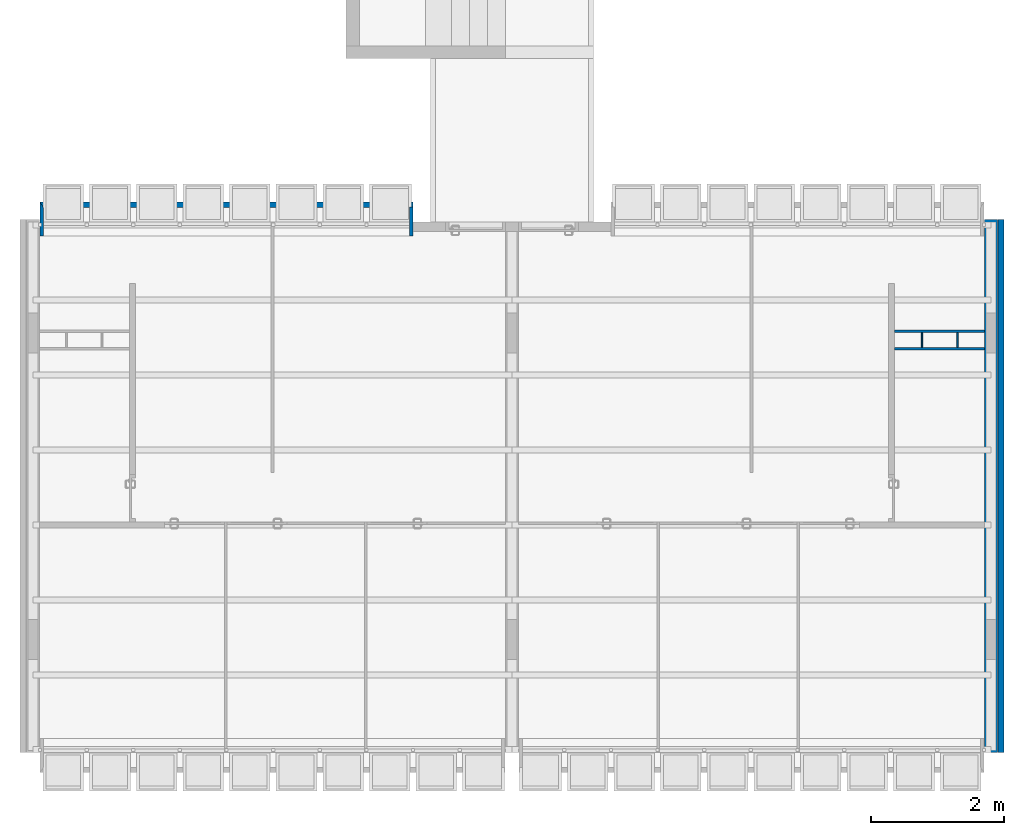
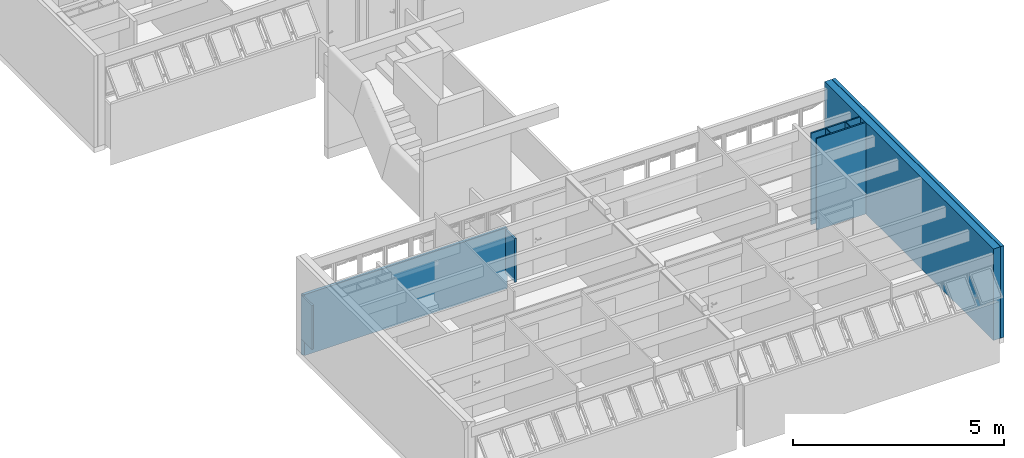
# One storey, part 12 of 37: 9 walls.
"""IFC2X3 building model written with IfcOpenShell, lengths in millimetres."""

from ifc_helpers import new_model, entity, si_unit, converted_unit, derived_unit, money_unit, direction, frame, origin_with_axes, place, context, subcontext, project, spatial, polyline, outline, extrude, material, layer, layer_set, layer_usage, type_object, element, save


model = new_model("IFC2X3")

# Units and contexts
model_context = context("Model", 3, precision=0.01, world=origin_with_axes(), true_north=direction((0.0, 1.0)))
body_context = subcontext(model_context, "Body", "Model", "MODEL_VIEW")
ifc_project = project(units=[si_unit("LENGTHUNIT", "METRE", prefix="MILLI"), si_unit("AREAUNIT", "SQUARE_METRE"), si_unit("VOLUMEUNIT", "CUBIC_METRE"), converted_unit("PLANEANGLEUNIT", "DEGREE", entity("IfcPlaneAngleMeasure", 0.0174532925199), si_unit("PLANEANGLEUNIT", "RADIAN"), dimensions=[0, 0, 0, 0, 0, 0, 0]), money_unit("USD"), converted_unit("TIMEUNIT", "Year", entity("IfcTimeMeasure", 31556926.0), si_unit("TIMEUNIT", "SECOND"), dimensions=[0, 0, 1, 0, 0, 0, 0]), si_unit("MASSUNIT", "GRAM", prefix="KILO"), si_unit("THERMODYNAMICTEMPERATUREUNIT", "DEGREE_CELSIUS"), si_unit("LUMINOUSINTENSITYUNIT", "LUMEN"), si_unit("ENERGYUNIT", "JOULE", prefix="MEGA"), derived_unit("THERMALCONDUCTANCEUNIT", [(si_unit("POWERUNIT", "WATT"), 1), (si_unit("LENGTHUNIT", "METRE"), -1), (si_unit("THERMODYNAMICTEMPERATUREUNIT", "KELVIN"), -1)]), derived_unit("SPECIFICHEATCAPACITYUNIT", [(si_unit("ENERGYUNIT", "JOULE"), 1), (si_unit("MASSUNIT", "GRAM", prefix="KILO"), -1), (si_unit("THERMODYNAMICTEMPERATUREUNIT", "KELVIN"), -1)]), derived_unit("MASSDENSITYUNIT", [(si_unit("MASSUNIT", "GRAM", prefix="KILO"), 1), (si_unit("VOLUMEUNIT", "CUBIC_METRE"), -1)])], contexts=[model_context])

# Site, building, storey
site_placement = place(None, origin_with_axes())
site = spatial("IfcSite", under=ifc_project, at=site_placement, Name="Local", CompositionType="ELEMENT")
building_placement = place(site_placement, origin_with_axes())
building = spatial("IfcBuilding", under=site, at=building_placement, Name="Construção", CompositionType="ELEMENT")
storey_placement = place(building_placement, origin_with_axes())
storey = spatial("IfcBuildingStorey", under=building, at=storey_placement, Name="Primeiro Pavimento", CompositionType="ELEMENT", Elevation=0.0)

# Walls
ifc_material_1 = material(Name="GENÉRICO - VEDAÇÃO EXTERNA")
ifc_layer_1 = layer(ifc_material_1, 190.0, ventilated="UNKNOWN")
ifc_layer_set_1 = layer_set([ifc_layer_1], Name="GENÉRICO - VEDAÇÃO EXTERNA 190")
ifc_layer_usage_1 = layer_usage(ifc_layer_set_1, "AXIS2", "POSITIVE", 0.0)
wall_type_1 = type_object("IfcWallType", Name="GENÉRICO - VEDAÇÃO EXTERNA 190", PredefinedType="NOTDEFINED")
wall_1_placement = place(storey_placement, frame((14480.0, 8300.0, 0.0), z_axis=(0.0, 0.0, 1.0), x_axis=(0.0, -1.0, 0.0)))
element("IfcWallStandardCase", 1, at=wall_1_placement, inside=storey, type_object=wall_type_1, material=ifc_layer_usage_1, Name="APTO2-PAREDE-013", context=body_context, shape_type="SweptSolid", body=[
    extrude(outline(polyline([(0.0, 0.0), (8000.0, 0.0), (8000.0, 190.0), (0.0, 190.0), (0.0, 0.0)])), origin_with_axes(), (0.0, 0.0, 1.0), 2650.0),
])
ifc_layer_2 = layer(ifc_material_1, 40.0, ventilated="UNKNOWN")
ifc_layer_set_2 = layer_set([ifc_layer_2], Name="GENÉRICO - VEDAÇÃO EXTERNA 40")
ifc_layer_usage_2 = layer_usage(ifc_layer_set_2, "AXIS2", "POSITIVE", -40.0)
wall_type_2 = type_object("IfcWallType", Name="GENÉRICO - VEDAÇÃO EXTERNA 40", PredefinedType="NOTDEFINED")
wall_2_placement = place(storey_placement, frame((14480.0, 6345.0, 0.0), z_axis=(0.0, 0.0, 1.0), x_axis=(-1.0, 0.0, 0.0)))
element("IfcWallStandardCase", 2, at=wall_2_placement, inside=storey, type_object=wall_type_2, material=ifc_layer_usage_2, Name="APTO2-PAREDE-011", context=body_context, shape_type="SweptSolid", body=[
    extrude(outline(polyline([(0.0, -40.0), (1350.0, -40.0), (1350.0, 0.0), (0.0, 0.0), (0.0, -40.0)])), origin_with_axes(), (0.0, 0.0, 1.0), 2650.0),
])
ifc_layer_usage_3 = layer_usage(ifc_layer_set_2, "AXIS2", "POSITIVE", -40.0)
wall_3_placement = place(storey_placement, frame((13040.0, 6645.0, 0.0), z_axis=(0.0, 0.0, 1.0), x_axis=(1.0, 0.0, 0.0)))
element("IfcWallStandardCase", 3, at=wall_3_placement, inside=storey, type_object=wall_type_2, material=ifc_layer_usage_3, Name="APTO2-PAREDE-010", context=body_context, shape_type="SweptSolid", body=[
    extrude(outline(polyline([(90.0, -40.0), (1440.0, -40.0), (1440.0, 0.0), (90.0, 0.0), (90.0, -40.0)])), origin_with_axes(), (0.0, 0.0, 1.0), 2650.0),
])
ifc_layer_3 = layer(ifc_material_1, 90.0, ventilated="UNKNOWN")
ifc_layer_set_3 = layer_set([ifc_layer_3], Name="GENÉRICO - VEDAÇÃO EXTERNA 90")
ifc_layer_usage_4 = layer_usage(ifc_layer_set_3, "AXIS2", "POSITIVE", 0.0)
wall_type_3 = type_object("IfcWallType", Name="GENÉRICO - VEDAÇÃO EXTERNA 90", PredefinedType="NOTDEFINED")
wall_4_placement = place(storey_placement, frame((14680.0, 8300.0, 0.0), z_axis=(0.0, 0.0, 1.0), x_axis=(0.0, -1.0, 0.0)))
element("IfcWallStandardCase", 4, at=wall_4_placement, inside=storey, type_object=wall_type_3, material=ifc_layer_usage_4, Name="APTO2-PAREDE-014", context=body_context, shape_type="SweptSolid", body=[
    extrude(outline(polyline([(0.0, 0.0), (8000.0, 0.0), (8000.0, 90.0), (0.0, 90.0), (0.0, 0.0)])), origin_with_axes(), (0.0, 0.0, 1.0), 2650.0),
])
ifc_material_2 = material(Name="Concreto Armado Moldado in Loco - Estrutural")
ifc_layer_4 = layer(ifc_material_2, 50.0, ventilated="UNKNOWN")
ifc_layer_set_4 = layer_set([ifc_layer_4], Name="Concreto Armado Moldado in Loco - Estrutural 50")
ifc_layer_usage_5 = layer_usage(ifc_layer_set_4, "AXIS2", "POSITIVE", -50.0)
wall_type_4 = type_object("IfcWallType", Name="Concreto Armado Moldado in Loco - Estrutural 50", PredefinedType="NOTDEFINED")
wall_5_placement = place(storey_placement, frame((300.0, 8054.99999866, 0.0), z_axis=(0.0, 0.0, 1.0), x_axis=(0.0, 1.0, 0.0)))
element("IfcWallStandardCase", 5, at=wall_5_placement, inside=storey, type_object=wall_type_4, material=ifc_layer_usage_5, Name="APTO1-PAREDE-018", context=body_context, shape_type="SweptSolid", body=[
    extrude(outline(polyline([(0.0, -50.0), (430.0, -50.0), (510.0, 0.0), (0.0, 0.0), (0.0, -50.0)])), origin_with_axes(), (0.0, 0.0, 1.0), 1270.0),
])
ifc_layer_usage_6 = layer_usage(ifc_layer_set_4, "AXIS2", "POSITIVE", -50.0)
wall_6_placement = place(storey_placement, frame((5850.0, 8054.99999866, 0.0), z_axis=(0.0, 0.0, 1.0), x_axis=(0.0, 1.0, 0.0)))
element("IfcWallStandardCase", 6, at=wall_6_placement, inside=storey, type_object=wall_type_4, material=ifc_layer_usage_6, Name="APTO1-PAREDE-016", context=body_context, shape_type="SweptSolid", body=[
    extrude(outline(polyline([(0.0, -50.0), (435.0, -50.0), (435.0, 0.0), (0.0, 0.0), (0.0, -50.0)])), origin_with_axes(), (0.0, 0.0, 1.0), 1270.0),
])
ifc_layer_5 = layer(ifc_material_1, 20.0, ventilated="UNKNOWN")
ifc_layer_set_5 = layer_set([ifc_layer_5], Name="GENÉRICO - VEDAÇÃO EXTERNA 20")
ifc_layer_usage_7 = layer_usage(ifc_layer_set_5, "AXIS2", "POSITIVE", -20.0)
wall_type_5 = type_object("IfcWallType", Name="GENÉRICO - VEDAÇÃO EXTERNA 20", PredefinedType="NOTDEFINED")
wall_7_placement = place(storey_placement, frame((14060.0, 6345.0, 0.0), z_axis=(0.0, 0.0, 1.0), x_axis=(0.0, 1.0, 0.0)))
element("IfcWallStandardCase", 7, at=wall_7_placement, inside=storey, type_object=wall_type_5, material=ifc_layer_usage_7, Name="APTO2-PAREDE-009", context=body_context, shape_type="SweptSolid", body=[
    extrude(outline(polyline([(40.0, -20.0), (260.0, -20.0), (260.0, 0.0), (40.0, 0.0), (40.0, -20.0)])), origin_with_axes(), (0.0, 0.0, 1.0), 2650.0),
])
ifc_layer_usage_8 = layer_usage(ifc_layer_set_5, "AXIS2", "POSITIVE", 0.0)
wall_8_placement = place(storey_placement, frame((13530.0, 6645.0, 0.0), z_axis=(0.0, 0.0, 1.0), x_axis=(0.0, -1.0, 0.0)))
element("IfcWallStandardCase", 8, at=wall_8_placement, inside=storey, type_object=wall_type_5, material=ifc_layer_usage_8, Name="APTO2-PAREDE-008", context=body_context, shape_type="SweptSolid", body=[
    extrude(outline(polyline([(40.0, 0.0), (260.0, 0.0), (260.0, 20.0), (40.0, 20.0), (40.0, 0.0)])), origin_with_axes(), (0.0, 0.0, 1.0), 2650.0),
])
ifc_layer_6 = layer(ifc_material_2, 80.0, ventilated="UNKNOWN")
ifc_layer_set_6 = layer_set([ifc_layer_6], Name="Concreto Armado Moldado in Loco - Estrutural 80")
ifc_layer_usage_9 = layer_usage(ifc_layer_set_6, "AXIS2", "NEGATIVE", 80.0)
wall_type_6 = type_object("IfcWallType", Name="Concreto Armado Moldado in Loco - Estrutural 80", PredefinedType="NOTDEFINED")
wall_9_placement = place(storey_placement, frame((300.0, 8484.99999866, -450.0), z_axis=(0.0, 0.0, 1.0), x_axis=(1.0, 0.0, 0.0)))
element("IfcWallStandardCase", 9, at=wall_9_placement, inside=storey, type_object=wall_type_6, material=ifc_layer_usage_9, Name="APTO1-PAREDE-017", context=body_context, shape_type="SweptSolid", body=[
    extrude(outline(polyline([(50.0, 0.0), (5600.0, 0.0), (5600.0, 80.0), (0.0, 80.0), (50.0, 0.0)])), origin_with_axes(), (0.0, 0.0, 1.0), 1765.0),
])

save(model, "model.ifc")
